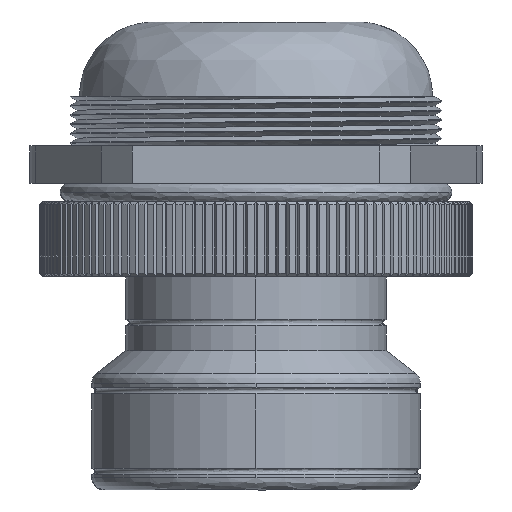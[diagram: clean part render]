
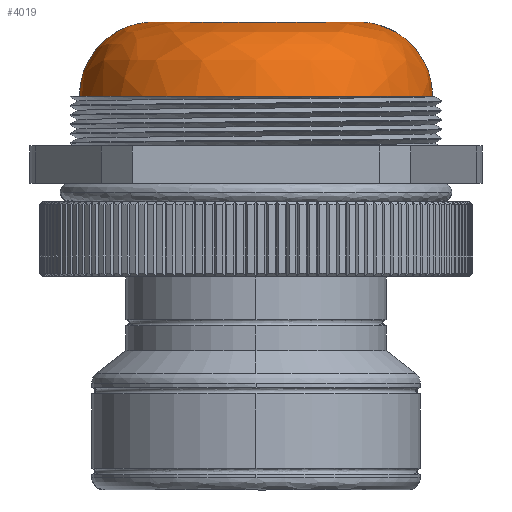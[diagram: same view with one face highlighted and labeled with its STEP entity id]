
A CAD part, front view. The second image highlights one B-rep face of the part: STEP entity #4019.
In plain terms, the highlighted free-form (B-spline) face has degree [3, 3] with [4, 4] control points.
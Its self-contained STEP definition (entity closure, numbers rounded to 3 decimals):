
#4019 = ADVANCED_FACE ( 'NONE', ( #15672 ), #15612, .T. ) ;
#4030 = EDGE_CURVE ( 'NONE', #4205, #4113, #15583, .T. ) ;
#4039 = ORIENTED_EDGE ( 'NONE', *, *, #4040, .T. ) ;
#4040 = EDGE_CURVE ( 'NONE', #4060, #4205, #15740, .T. ) ;
#4042 = ORIENTED_EDGE ( 'NONE', *, *, #4055, .T. ) ;
#4044 = VERTEX_POINT ( 'NONE', #15731 ) ;
#4054 = EDGE_LOOP ( 'NONE', ( #4042, #4039, #4108, #4110 ) ) ;
#4055 = EDGE_CURVE ( 'NONE', #4044, #4060, #15802, .T. ) ;
#4060 = VERTEX_POINT ( 'NONE', #15790 ) ;
#4108 = ORIENTED_EDGE ( 'NONE', *, *, #4030, .T. ) ;
#4110 = ORIENTED_EDGE ( 'NONE', *, *, #4111, .F. ) ;
#4111 = EDGE_CURVE ( 'NONE', #4044, #4113, #15908, .T. ) ;
#4113 = VERTEX_POINT ( 'NONE', #15902 ) ;
#4205 = VERTEX_POINT ( 'NONE', #16267 ) ;
#15547 = CARTESIAN_POINT ( 'NONE',  ( -16.5, 407., 63.5 ) ) ;
#15579 = DIRECTION ( 'NONE',  ( 0., -1., 0. ) ) ;
#15580 = DIRECTION ( 'NONE',  ( 0., 0., 1. ) ) ;
#15581 = CARTESIAN_POINT ( 'NONE',  ( 0., 407., 63.5 ) ) ;
#15582 = AXIS2_PLACEMENT_3D ( 'NONE', #15581, #15580, #15579 ) ;
#15583 = CIRCLE ( 'NONE', #15582, 28.5 ) ;
#15593 = CARTESIAN_POINT ( 'NONE',  ( 28.5, 407., 63.5 ) ) ;
#15594 = CARTESIAN_POINT ( 'NONE',  ( 28.5, 350., 63.5 ) ) ;
#15595 = CARTESIAN_POINT ( 'NONE',  ( -28.5, 350., 63.5 ) ) ;
#15596 = CARTESIAN_POINT ( 'NONE',  ( -28.5, 407., 63.5 ) ) ;
#15597 = CARTESIAN_POINT ( 'NONE',  ( 28.5, 407., 70.529 ) ) ;
#15598 = CARTESIAN_POINT ( 'NONE',  ( 28.5, 350., 70.529 ) ) ;
#15599 = CARTESIAN_POINT ( 'NONE',  ( -28.5, 350., 70.529 ) ) ;
#15600 = CARTESIAN_POINT ( 'NONE',  ( -28.5, 407., 70.529 ) ) ;
#15601 = CARTESIAN_POINT ( 'NONE',  ( 23.53, 407., 75.5 ) ) ;
#15602 = CARTESIAN_POINT ( 'NONE',  ( 23.53, 359.941, 75.5 ) ) ;
#15603 = CARTESIAN_POINT ( 'NONE',  ( -23.53, 359.941, 75.5 ) ) ;
#15604 = CARTESIAN_POINT ( 'NONE',  ( -23.53, 407., 75.5 ) ) ;
#15605 = CARTESIAN_POINT ( 'NONE',  ( 16.5, 407., 75.5 ) ) ;
#15606 = CARTESIAN_POINT ( 'NONE',  ( 16.5, 374., 75.5 ) ) ;
#15607 = CARTESIAN_POINT ( 'NONE',  ( -16.5, 374., 75.5 ) ) ;
#15608 = CARTESIAN_POINT ( 'NONE',  ( -16.5, 407., 75.5 ) ) ;
#15612 =( BOUNDED_SURFACE ( )  B_SPLINE_SURFACE ( 3, 3, ( 
 ( #15608, #15607, #15606, #15605 ),
 ( #15604, #15603, #15602, #15601 ),
 ( #15600, #15599, #15598, #15597 ),
 ( #15596, #15595, #15594, #15593 ) ),
 .UNSPECIFIED., .F., .F., .T. ) 
 B_SPLINE_SURFACE_WITH_KNOTS ( ( 4, 4 ),
 ( 4, 4 ),
 ( 0., 1. ),
 ( 0., 1. ),
 .UNSPECIFIED. ) 
 GEOMETRIC_REPRESENTATION_ITEM ( )  RATIONAL_B_SPLINE_SURFACE ( (
 ( 1., 0.333, 0.333, 1.),
 ( 0.805, 0.268, 0.268, 0.805),
 ( 0.805, 0.268, 0.268, 0.805),
 ( 1., 0.333, 0.333, 1.) ) ) 
 REPRESENTATION_ITEM ( '' )  SURFACE ( )  );
#15672 = FACE_OUTER_BOUND ( 'NONE', #4054, .T. ) ;
#15731 = CARTESIAN_POINT ( 'NONE',  ( 16.5, 407., 75.5 ) ) ;
#15737 = DIRECTION ( 'NONE',  ( -1., 0., 0. ) ) ;
#15738 = DIRECTION ( 'NONE',  ( 0., -1., 0. ) ) ;
#15739 = AXIS2_PLACEMENT_3D ( 'NONE', #15547, #15738, #15737 ) ;
#15740 = CIRCLE ( 'NONE', #15739, 12. ) ;
#15790 = CARTESIAN_POINT ( 'NONE',  ( -16.5, 407., 75.5 ) ) ;
#15796 = CARTESIAN_POINT ( 'NONE',  ( -16.5, 407., 75.5 ) ) ;
#15797 = CARTESIAN_POINT ( 'NONE',  ( -16.5, 374., 75.5 ) ) ;
#15798 = CARTESIAN_POINT ( 'NONE',  ( 16.5, 374., 75.5 ) ) ;
#15799 = CARTESIAN_POINT ( 'NONE',  ( 16.5, 407., 75.5 ) ) ;
#15802 =( BOUNDED_CURVE ( )  B_SPLINE_CURVE ( 3, ( #15799, #15798, #15797, #15796 ),
 .UNSPECIFIED., .F., .T. ) 
 B_SPLINE_CURVE_WITH_KNOTS ( ( 4, 4 ),
 ( 0., 0.5 ),
 .UNSPECIFIED. ) 
 CURVE ( )  GEOMETRIC_REPRESENTATION_ITEM ( )  RATIONAL_B_SPLINE_CURVE ( ( 1., 0.333, 0.333, 1. ) ) 
 REPRESENTATION_ITEM ( '' )  );
#15902 = CARTESIAN_POINT ( 'NONE',  ( 28.5, 407., 63.5 ) ) ;
#15904 = DIRECTION ( 'NONE',  ( 1., 0., 0. ) ) ;
#15905 = DIRECTION ( 'NONE',  ( 0., 1., 0. ) ) ;
#15906 = CARTESIAN_POINT ( 'NONE',  ( 16.5, 407., 63.5 ) ) ;
#15907 = AXIS2_PLACEMENT_3D ( 'NONE', #15906, #15905, #15904 ) ;
#15908 = CIRCLE ( 'NONE', #15907, 12. ) ;
#16267 = CARTESIAN_POINT ( 'NONE',  ( -28.5, 407., 63.5 ) ) ;
